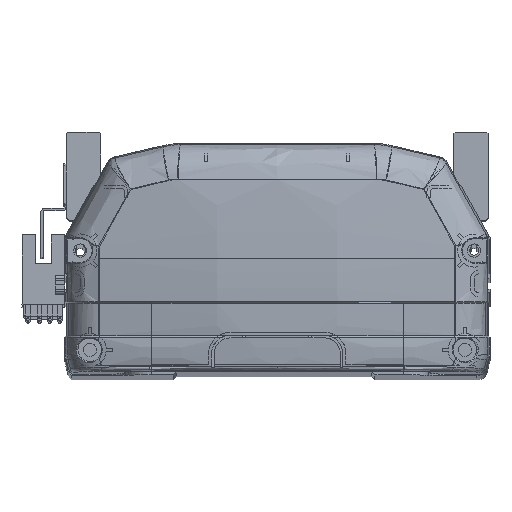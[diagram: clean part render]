
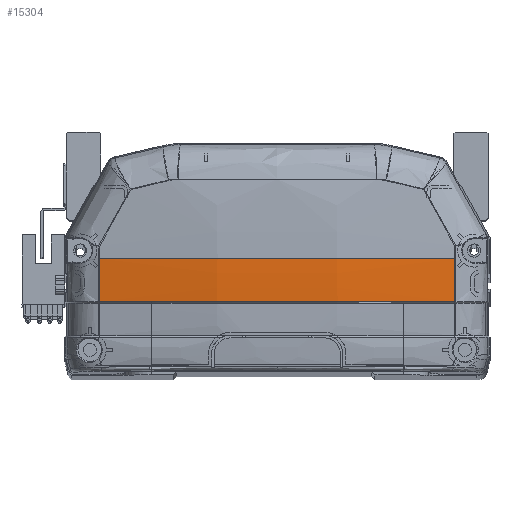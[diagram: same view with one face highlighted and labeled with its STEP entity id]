
A CAD part, top view. The second image highlights one B-rep face of the part: STEP entity #15304.
In plain terms, the highlighted free-form (B-spline) face has degree [3, 3] with [4, 4] control points.
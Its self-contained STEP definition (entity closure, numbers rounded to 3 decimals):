
#307 = DIRECTION ( 'NONE',  ( 0., 0., -1. ) ) ;
#375 = CARTESIAN_POINT ( 'NONE',  ( 1.152, 22.225, -9.568 ) ) ;
#574 = DIRECTION ( 'NONE',  ( 0., 1., 0. ) ) ;
#675 = CARTESIAN_POINT ( 'NONE',  ( 56.647, 36., -5.158 ) ) ;
#771 = B_SPLINE_CURVE_WITH_KNOTS ( 'NONE', 3,
 ( #41935, #2089, #24007, #2551 ),
 .UNSPECIFIED., .F., .F.,
 ( 4, 4 ),
 ( 0., 1. ),
 .UNSPECIFIED. ) ;
#1834 = CIRCLE ( 'NONE', #32931, 340.733 ) ;
#2089 = CARTESIAN_POINT ( 'NONE',  ( -56.647, 31.405, -5.158 ) ) ;
#2551 = CARTESIAN_POINT ( 'NONE',  ( -56.661, 22.225, -4.818 ) ) ;
#2638 = CARTESIAN_POINT ( 'NONE',  ( -19.295, 26.549, -11.419 ) ) ;
#4823 = CARTESIAN_POINT ( 'NONE',  ( 6452.613, 35.969, -5.158 ) ) ;
#5032 = AXIS2_PLACEMENT_3D ( 'NONE', #4823, #15605, #8166 ) ;
#5306 = CARTESIAN_POINT ( 'NONE',  ( -57.335, 22.148, -4.7 ) ) ;
#5984 = ORIENTED_EDGE ( 'NONE', *, *, #31877, .F. ) ;
#6507 = VERTEX_POINT ( 'NONE', #19859 ) ;
#6995 = CARTESIAN_POINT ( 'NONE',  ( 56.661, 22.225, -4.818 ) ) ;
#8166 = DIRECTION ( 'NONE',  ( -1., 0., 0. ) ) ;
#9133 = CARTESIAN_POINT ( 'NONE',  ( 57.335, 31.38, -5.042 ) ) ;
#9195 =( BOUNDED_SURFACE ( )  B_SPLINE_SURFACE ( 3, 3, ( 
 ( #37547, #39148, #9133, #45154 ),
 ( #23466, #46111, #46415, #12763 ),
 ( #35311, #2638, #28029, #13550 ),
 ( #5306, #16088, #17349, #38979 ) ),
 .UNSPECIFIED., .F., .F., .F. ) 
 B_SPLINE_SURFACE_WITH_KNOTS ( ( 4, 4 ),
 ( 4, 4 ),
 ( 0., 1. ),
 ( 0., 1. ),
 .UNSPECIFIED. ) 
 GEOMETRIC_REPRESENTATION_ITEM ( )  RATIONAL_B_SPLINE_SURFACE ( (
 ( 1., 1., 1., 1.),
 ( 0.99, 0.99, 0.99, 0.99),
 ( 0.99, 0.99, 0.99, 0.99),
 ( 1., 1., 1., 1.) ) ) 
 REPRESENTATION_ITEM ( '' )  SURFACE ( )  );
#12016 = VERTEX_POINT ( 'NONE', #675 ) ;
#12763 = CARTESIAN_POINT ( 'NONE',  ( 19.295, 36., -11.535 ) ) ;
#13550 = CARTESIAN_POINT ( 'NONE',  ( -19.295, 36., -11.535 ) ) ;
#13814 = CARTESIAN_POINT ( 'NONE',  ( 4.761, 22.225, -9.537 ) ) ;
#15304 = ADVANCED_FACE ( 'NONE', ( #46248 ), #9195, .T. ) ;
#15605 = DIRECTION ( 'NONE',  ( 0., 0., -1. ) ) ;
#16088 = CARTESIAN_POINT ( 'NONE',  ( -57.335, 26.762, -4.928 ) ) ;
#16294 = ORIENTED_EDGE ( 'NONE', *, *, #43079, .T. ) ;
#17154 = CARTESIAN_POINT ( 'NONE',  ( 8.363, 22.225, -9.48 ) ) ;
#17349 = CARTESIAN_POINT ( 'NONE',  ( -57.335, 31.38, -5.042 ) ) ;
#17572 = EDGE_CURVE ( 'NONE', #35734, #12016, #25764, .T. ) ;
#17948 = CARTESIAN_POINT ( 'NONE',  ( -19.28, 22.225, -9.565 ) ) ;
#19353 = CARTESIAN_POINT ( 'NONE',  ( 56.652, 26.806, -5.044 ) ) ;
#19569 = CARTESIAN_POINT ( 'NONE',  ( 56.661, 22.225, -4.818 ) ) ;
#19859 = CARTESIAN_POINT ( 'NONE',  ( -56.647, 36., -5.158 ) ) ;
#20449 = ORIENTED_EDGE ( 'NONE', *, *, #24520, .F. ) ;
#21249 = EDGE_CURVE ( 'NONE', #32735, #35734, #21940, .T. ) ;
#21501 = CARTESIAN_POINT ( 'NONE',  ( 47.432, 22.225, -6.377 ) ) ;
#21940 = B_SPLINE_CURVE_WITH_KNOTS ( 'NONE', 3,
 ( #45363, #19353, #44899, #37440 ),
 .UNSPECIFIED., .F., .F.,
 ( 4, 4 ),
 ( 0., 1. ),
 .UNSPECIFIED. ) ;
#23466 = CARTESIAN_POINT ( 'NONE',  ( 19.295, 21.828, -11.186 ) ) ;
#24007 = CARTESIAN_POINT ( 'NONE',  ( -56.652, 26.814, -5.045 ) ) ;
#24520 = EDGE_CURVE ( 'NONE', #6507, #29646, #771, .T. ) ;
#25154 = CARTESIAN_POINT ( 'NONE',  ( 38.071, 22.225, -7.566 ) ) ;
#25764 = CIRCLE ( 'NONE', #5032, 6395.966 ) ;
#25771 = CARTESIAN_POINT ( 'NONE',  ( -38.235, 22.225, -7.93 ) ) ;
#27608 = ORIENTED_EDGE ( 'NONE', *, *, #21249, .F. ) ;
#28029 = CARTESIAN_POINT ( 'NONE',  ( -19.295, 31.274, -11.535 ) ) ;
#28782 = CARTESIAN_POINT ( 'NONE',  ( 23.877, 22.225, -8.763 ) ) ;
#28812 = ORIENTED_EDGE ( 'NONE', *, *, #17572, .F. ) ;
#29147 = CARTESIAN_POINT ( 'NONE',  ( -56.661, 22.225, -4.818 ) ) ;
#29646 = VERTEX_POINT ( 'NONE', #29147 ) ;
#31877 = EDGE_CURVE ( 'NONE', #12016, #6507, #1834, .T. ) ;
#31980 = CARTESIAN_POINT ( 'NONE',  ( 11.954, 22.225, -9.367 ) ) ;
#32735 = VERTEX_POINT ( 'NONE', #19569 ) ;
#32931 = AXIS2_PLACEMENT_3D ( 'NONE', #43505, #574, #307 ) ;
#35311 = CARTESIAN_POINT ( 'NONE',  ( -19.295, 21.828, -11.186 ) ) ;
#35579 = CARTESIAN_POINT ( 'NONE',  ( 2.357, 22.225, -9.562 ) ) ;
#35734 = VERTEX_POINT ( 'NONE', #42606 ) ;
#37440 = CARTESIAN_POINT ( 'NONE',  ( 56.647, 35.969, -5.158 ) ) ;
#37547 = CARTESIAN_POINT ( 'NONE',  ( 57.335, 22.148, -4.7 ) ) ;
#38935 = CARTESIAN_POINT ( 'NONE',  ( 19.121, 22.225, -9.064 ) ) ;
#38979 = CARTESIAN_POINT ( 'NONE',  ( -57.335, 36., -5.042 ) ) ;
#39148 = CARTESIAN_POINT ( 'NONE',  ( 57.335, 26.762, -4.928 ) ) ;
#40042 = CARTESIAN_POINT ( 'NONE',  ( -56.661, 22.225, -4.818 ) ) ;
#41935 = CARTESIAN_POINT ( 'NONE',  ( -56.647, 36., -5.158 ) ) ;
#42606 = CARTESIAN_POINT ( 'NONE',  ( 56.647, 35.969, -5.158 ) ) ;
#42804 = EDGE_LOOP ( 'NONE', ( #5984, #28812, #27608, #16294, #20449 ) ) ;
#43079 = EDGE_CURVE ( 'NONE', #32735, #29646, #46156, .T. ) ;
#43505 = CARTESIAN_POINT ( 'NONE',  ( 0., 36., 330.833 ) ) ;
#44899 = CARTESIAN_POINT ( 'NONE',  ( 56.647, 31.387, -5.158 ) ) ;
#45154 = CARTESIAN_POINT ( 'NONE',  ( 57.335, 36., -5.042 ) ) ;
#45363 = CARTESIAN_POINT ( 'NONE',  ( 56.661, 22.225, -4.818 ) ) ;
#46111 = CARTESIAN_POINT ( 'NONE',  ( 19.295, 26.549, -11.419 ) ) ;
#46156 = B_SPLINE_CURVE_WITH_KNOTS ( 'NONE', 3,
 ( #6995, #21501, #25154, #28782, #38935, #31980, #17154, #13814, #35579, #375, #17948, #25771, #40042 ),
 .UNSPECIFIED., .F., .F.,
 ( 4, 2, 2, 1, 2, 2, 4 ),
 ( 0., 0.25, 0.375, 0.438, 0.469, 0.5, 1. ),
 .UNSPECIFIED. ) ;
#46248 = FACE_OUTER_BOUND ( 'NONE', #42804, .T. ) ;
#46415 = CARTESIAN_POINT ( 'NONE',  ( 19.295, 31.274, -11.535 ) ) ;
